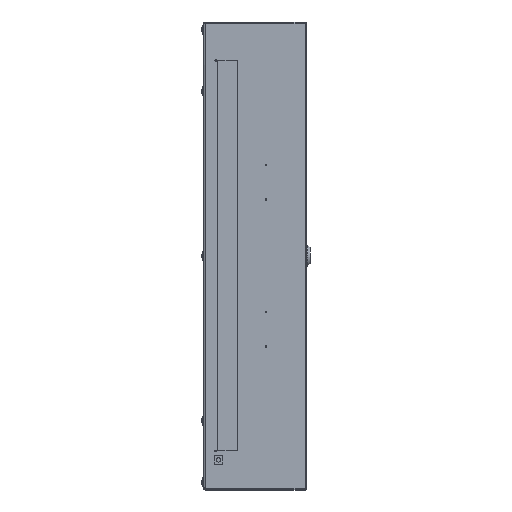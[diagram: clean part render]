
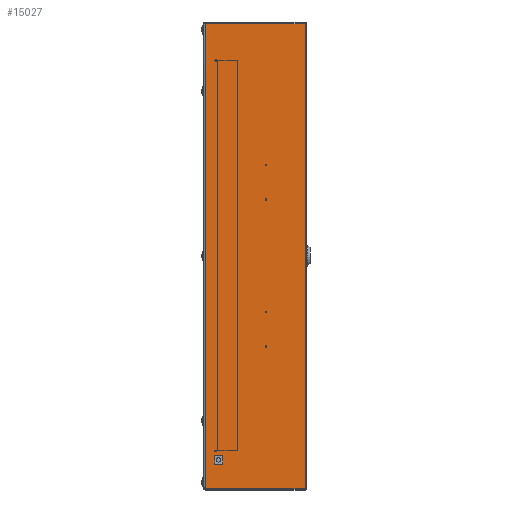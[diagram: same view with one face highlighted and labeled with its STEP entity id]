
A CAD part, top view. The second image highlights one B-rep face of the part: STEP entity #15027.
In plain terms, the highlighted planar face has unit normal (0, 0, 1).
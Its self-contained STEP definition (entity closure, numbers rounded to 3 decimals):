
#189 = DIRECTION ( 'NONE',  ( 1., 0., 0. ) ) ;
#276 = EDGE_CURVE ( 'NONE', #11031, #2560, #8880, .T. ) ;
#383 = ORIENTED_EDGE ( 'NONE', *, *, #276, .T. ) ;
#724 = CARTESIAN_POINT ( 'NONE',  ( 6., 0.7, 440.3 ) ) ;
#893 = VECTOR ( 'NONE', #12044, 1000. ) ;
#1271 = ORIENTED_EDGE ( 'NONE', *, *, #7070, .T. ) ;
#1408 = CARTESIAN_POINT ( 'NONE',  ( 16.1, 29., 440.3 ) ) ;
#1537 = DIRECTION ( 'NONE',  ( 0., 1., 0. ) ) ;
#2100 = VERTEX_POINT ( 'NONE', #5652 ) ;
#2122 = ORIENTED_EDGE ( 'NONE', *, *, #16200, .T. ) ;
#2124 = DIRECTION ( 'NONE',  ( 1., 0., 0. ) ) ;
#2379 = VERTEX_POINT ( 'NONE', #3382 ) ;
#2554 = FACE_OUTER_BOUND ( 'NONE', #15130, .T. ) ;
#2560 = VERTEX_POINT ( 'NONE', #14793 ) ;
#2818 = DIRECTION ( 'NONE',  ( 0., -1., 0. ) ) ;
#2875 = CARTESIAN_POINT ( 'NONE',  ( 26.1, 29., 440.3 ) ) ;
#3225 = DIRECTION ( 'NONE',  ( 0., 1., 0. ) ) ;
#3382 = CARTESIAN_POINT ( 'NONE',  ( 121.2, 0.7, 440.3 ) ) ;
#3960 = ORIENTED_EDGE ( 'NONE', *, *, #16738, .T. ) ;
#3975 = CARTESIAN_POINT ( 'NONE',  ( 6., 537.8, 440.3 ) ) ;
#4193 = VERTEX_POINT ( 'NONE', #11238 ) ;
#5174 = LINE ( 'NONE', #11583, #16600 ) ;
#5652 = CARTESIAN_POINT ( 'NONE',  ( 26.1, 29., 440.3 ) ) ;
#5968 = DIRECTION ( 'NONE',  ( 0., -1., 0. ) ) ;
#6134 = VECTOR ( 'NONE', #5968, 1000. ) ;
#6155 = LINE ( 'NONE', #15906, #17194 ) ;
#6192 = VERTEX_POINT ( 'NONE', #3975 ) ;
#6533 = DIRECTION ( 'NONE',  ( 1., 0., 0. ) ) ;
#7070 = EDGE_CURVE ( 'NONE', #2100, #4193, #12731, .T. ) ;
#8112 = ORIENTED_EDGE ( 'NONE', *, *, #11375, .T. ) ;
#8431 = EDGE_CURVE ( 'NONE', #2379, #13922, #6155, .T. ) ;
#8498 = VECTOR ( 'NONE', #2818, 1000. ) ;
#8880 = LINE ( 'NONE', #11871, #13468 ) ;
#9554 = EDGE_CURVE ( 'NONE', #14449, #2379, #5174, .T. ) ;
#9851 = VECTOR ( 'NONE', #3225, 1000. ) ;
#10476 = CARTESIAN_POINT ( 'NONE',  ( 16.1, 39., 440.3 ) ) ;
#10579 = EDGE_LOOP ( 'NONE', ( #383, #2122, #1271, #8112 ) ) ;
#11031 = VERTEX_POINT ( 'NONE', #10476 ) ;
#11106 = ORIENTED_EDGE ( 'NONE', *, *, #8431, .T. ) ;
#11238 = CARTESIAN_POINT ( 'NONE',  ( 16.1, 29., 440.3 ) ) ;
#11325 = CARTESIAN_POINT ( 'NONE',  ( 6., 537.8, 440.3 ) ) ;
#11375 = EDGE_CURVE ( 'NONE', #4193, #11031, #16877, .T. ) ;
#11385 = LINE ( 'NONE', #13916, #6134 ) ;
#11390 = DIRECTION ( 'NONE',  ( 0., 0., 1. ) ) ;
#11583 = CARTESIAN_POINT ( 'NONE',  ( 6., 0.7, 440.3 ) ) ;
#11871 = CARTESIAN_POINT ( 'NONE',  ( 26.1, 39., 440.3 ) ) ;
#11976 = LINE ( 'NONE', #12462, #15078 ) ;
#12044 = DIRECTION ( 'NONE',  ( -1., 0., 0. ) ) ;
#12184 = ORIENTED_EDGE ( 'NONE', *, *, #9554, .T. ) ;
#12358 = CARTESIAN_POINT ( 'NONE',  ( 121.2, 537.8, 440.3 ) ) ;
#12462 = CARTESIAN_POINT ( 'NONE',  ( 6., 537.8, 440.3 ) ) ;
#12553 = CARTESIAN_POINT ( 'NONE',  ( 16.1, 39., 440.3 ) ) ;
#12731 = LINE ( 'NONE', #1408, #893 ) ;
#13276 = ORIENTED_EDGE ( 'NONE', *, *, #17149, .F. ) ;
#13468 = VECTOR ( 'NONE', #6533, 1000. ) ;
#13558 = AXIS2_PLACEMENT_3D ( 'NONE', #11325, #11390, #14035 ) ;
#13916 = CARTESIAN_POINT ( 'NONE',  ( 6., 537.8, 440.3 ) ) ;
#13922 = VERTEX_POINT ( 'NONE', #12358 ) ;
#14035 = DIRECTION ( 'NONE',  ( 1., 0., 0. ) ) ;
#14449 = VERTEX_POINT ( 'NONE', #724 ) ;
#14793 = CARTESIAN_POINT ( 'NONE',  ( 26.1, 39., 440.3 ) ) ;
#15027 = ADVANCED_FACE ( 'NONE', ( #2554, #15217 ), #16630, .T. ) ;
#15078 = VECTOR ( 'NONE', #2124, 1000. ) ;
#15130 = EDGE_LOOP ( 'NONE', ( #3960, #12184, #11106, #13276 ) ) ;
#15147 = LINE ( 'NONE', #2875, #8498 ) ;
#15217 = FACE_BOUND ( 'NONE', #10579, .T. ) ;
#15906 = CARTESIAN_POINT ( 'NONE',  ( 121.2, 0.7, 440.3 ) ) ;
#16200 = EDGE_CURVE ( 'NONE', #2560, #2100, #15147, .T. ) ;
#16600 = VECTOR ( 'NONE', #189, 1000. ) ;
#16630 = PLANE ( 'NONE',  #13558 ) ;
#16738 = EDGE_CURVE ( 'NONE', #6192, #14449, #11385, .T. ) ;
#16877 = LINE ( 'NONE', #12553, #9851 ) ;
#17149 = EDGE_CURVE ( 'NONE', #6192, #13922, #11976, .T. ) ;
#17194 = VECTOR ( 'NONE', #1537, 1000. ) ;
